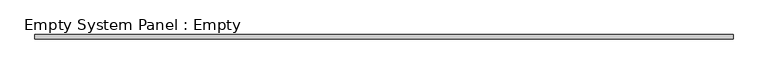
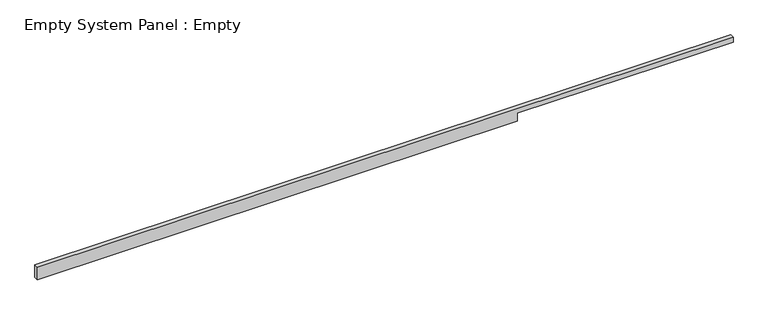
"""IFC4 building model written with IfcOpenShell, lengths in millimetres: plate geometry, Empty System Panel : Empty."""

from ifc_helpers import new_model, si_unit, frame, origin, place, context, project, spatial, polyline, outline, extrude, source, transform, mapped, element, save


def empty_system_panel_empty_b911bb76(model_context):
    return source(origin(), model_context, "Body", "SweptSolid", [
        extrude(outline(polyline([(0.0, -8225.0), (0.0, 3125.0), (192.6201878, 3125.0), (192.6201878, 8225.0), (310.0, 8225.0), (310.0, -8225.0), (0.0, -8225.0)])), frame((0.0, -50.0, 0.0), z_axis=(0.0, 1.0, 0.0), x_axis=(0.0, 0.0, 1.0)), (0.0, 0.0, 1.0), 100.0),
    ])


if __name__ == "__main__":
    model = new_model("IFC4")
    model_context = context("Model", 3, world=origin())
    ifc_project = project(units=[si_unit("LENGTHUNIT", "METRE", prefix="MILLI")], contexts=[model_context])
    site = spatial("IfcSite", under=ifc_project)
    building = spatial("IfcBuilding", under=site)
    placement = place(None, origin())
    empty_system_panel_empty_shape = empty_system_panel_empty_b911bb76(model_context)
    element("IfcPlate", 1, ObjectType="Empty System Panel : Empty", at=placement, inside=building, context=model_context, shape_type="MappedRepresentation", body=[
        mapped(empty_system_panel_empty_shape, transform((0.0, 0.0, 0.0), x_axis=(1.0, 0.0, 0.0), y_axis=(0.0, 1.0, 0.0), z_axis=(0.0, 0.0, 1.0))),
    ])
    save(model, "model.ifc")
